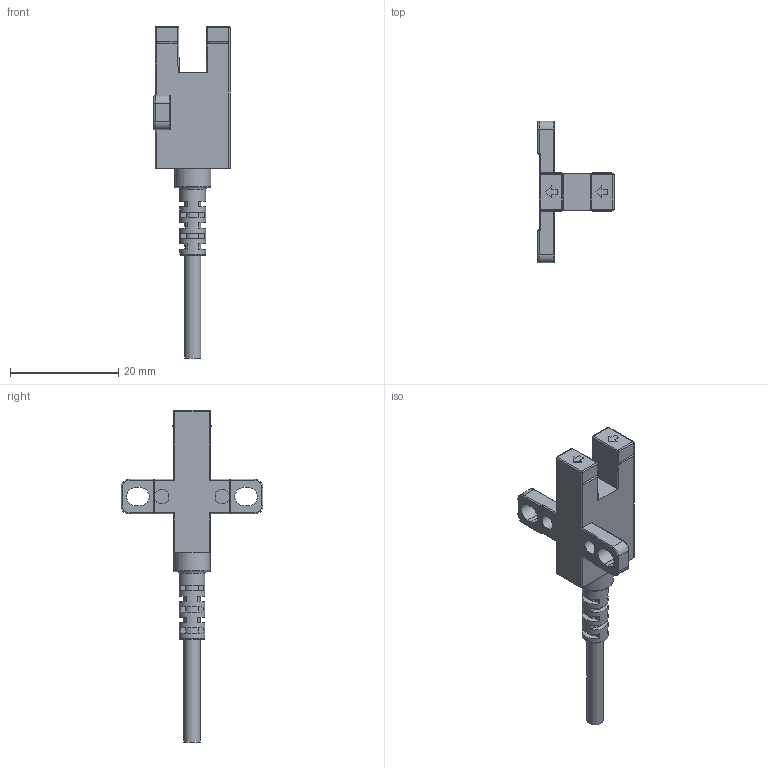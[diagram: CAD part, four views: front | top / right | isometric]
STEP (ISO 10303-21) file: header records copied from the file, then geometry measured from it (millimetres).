
FILE_DESCRIPTION(/* description */ (''),/* implementation_level */ '2;1');
FILE_NAME(/* name */ 'F:\HUAYIFENG\02)HUAYIFENG_3D_MODE\HUAYIFENG_3D_MODE_\X2\69FD578B51497535\X0\\HUAYIFENG_3D_MODE_槽型光电_LU67X\X2\7CFB5217\X0\\槽型光电_LU67系列_销售用\LU672\LU672.stp',/* time_stamp */ '2017-11-28T14:51:02+08:00',/* author */ ('fengjiarun'),/* organization */ (''),/* preprocessor_version */ 'ST-DEVELOPER v16.5',/* originating_system */ 'Autodesk Inventor 2017',/* authorisation */ '');
FILE_SCHEMA (('AUTOMOTIVE_DESIGN { 1 0 10303 214 3 1 1 }'));
Length unit declared in the file: millimetre
Products named in the file (1): 零件23
Bounding box: 14.05 x 26.2 x 61.3 mm (x, y, z)
Volume: 1669.1 mm3; surface area: 3173 mm2
Topology: 1 solids, 3 shells, 231 faces, 555 edges, 342 vertices
Faces by surface type: plane 136, cylinder 70, torus 13, sphere 12
Full cylindrical faces by diameter (mm): 2.7 x2, 2.8 x1, 3 x2, 4.7 x1, 4.8 x1, 6.7 x1
Entity records: 6551 total; most frequent: DIRECTION 1156, CARTESIAN_POINT 1096, ORIENTED_EDGE 1054, EDGE_CURVE 527, AXIS2_PLACEMENT_3D 397, LINE 362, VECTOR 362, VERTEX_POINT 337
